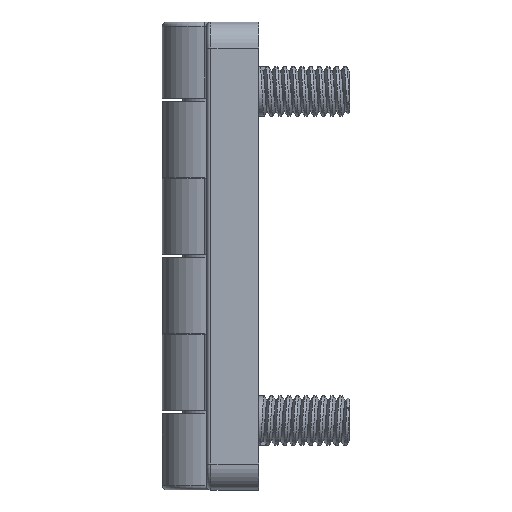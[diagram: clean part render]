
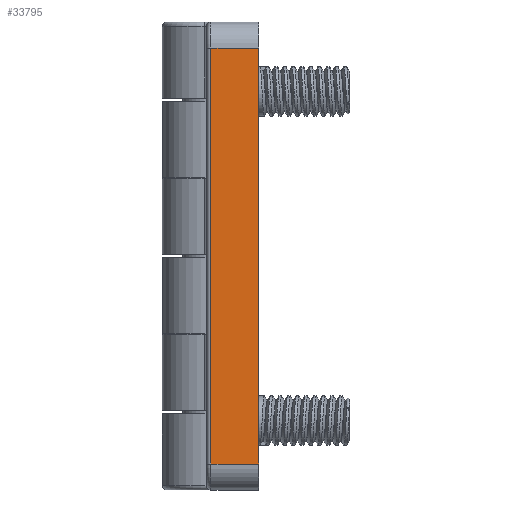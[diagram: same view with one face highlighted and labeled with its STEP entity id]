
A CAD part, left-side view. The second image highlights one B-rep face of the part: STEP entity #33795.
In plain terms, the highlighted planar face has unit normal (-1, 0, 0) as drawn and (1, 0, 0) by its records, which use the part's own axes.
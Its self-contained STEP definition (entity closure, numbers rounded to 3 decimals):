
#1199 = DIRECTION ( 'NONE',  ( 0., 1., 0. ) ) ;
#2846 = VERTEX_POINT ( 'NONE', #5552 ) ;
#5155 = ORIENTED_EDGE ( 'NONE', *, *, #35065, .T. ) ;
#5259 = VECTOR ( 'NONE', #38728, 1000. ) ;
#5552 = CARTESIAN_POINT ( 'NONE',  ( 19.7, -0.3, 51. ) ) ;
#7192 = DIRECTION ( 'NONE',  ( -1., 0., 0. ) ) ;
#7450 = VECTOR ( 'NONE', #49335, 1000. ) ;
#9320 = EDGE_CURVE ( 'NONE', #40501, #16548, #45862, .T. ) ;
#10485 = EDGE_LOOP ( 'NONE', ( #31538, #44092, #29205, #5155 ) ) ;
#13926 = CARTESIAN_POINT ( 'NONE',  ( 19.7, 0.2, 54. ) ) ;
#14195 = CARTESIAN_POINT ( 'NONE',  ( 19.7, -0.3, 3. ) ) ;
#16548 = VERTEX_POINT ( 'NONE', #14195 ) ;
#16688 = CARTESIAN_POINT ( 'NONE',  ( 19.7, 0.2, 51. ) ) ;
#17884 = CARTESIAN_POINT ( 'NONE',  ( 19.7, -5.8, 54. ) ) ;
#21713 = AXIS2_PLACEMENT_3D ( 'NONE', #13926, #7192, #44868 ) ;
#23985 = CARTESIAN_POINT ( 'NONE',  ( 19.7, -5.8, 51. ) ) ;
#26786 = EDGE_CURVE ( 'NONE', #16548, #2846, #27984, .T. ) ;
#26911 = CARTESIAN_POINT ( 'NONE',  ( 19.7, 0.2, 3. ) ) ;
#27930 = LINE ( 'NONE', #16688, #33688 ) ;
#27984 = LINE ( 'NONE', #46442, #5259 ) ;
#29205 = ORIENTED_EDGE ( 'NONE', *, *, #33727, .T. ) ;
#31538 = ORIENTED_EDGE ( 'NONE', *, *, #9320, .T. ) ;
#31912 = DIRECTION ( 'NONE',  ( 0., -1., 0. ) ) ;
#33688 = VECTOR ( 'NONE', #31912, 1000. ) ;
#33727 = EDGE_CURVE ( 'NONE', #2846, #37326, #27930, .T. ) ;
#33795 = ADVANCED_FACE ( 'NONE', ( #49117 ), #41129, .F. ) ;
#35065 = EDGE_CURVE ( 'NONE', #37326, #40501, #49094, .T. ) ;
#35121 = CARTESIAN_POINT ( 'NONE',  ( 19.7, -5.8, 3. ) ) ;
#37163 = VECTOR ( 'NONE', #1199, 1000. ) ;
#37326 = VERTEX_POINT ( 'NONE', #23985 ) ;
#38728 = DIRECTION ( 'NONE',  ( 0., 0., 1. ) ) ;
#40501 = VERTEX_POINT ( 'NONE', #35121 ) ;
#41129 = PLANE ( 'NONE',  #21713 ) ;
#44092 = ORIENTED_EDGE ( 'NONE', *, *, #26786, .T. ) ;
#44868 = DIRECTION ( 'NONE',  ( 0., 0., 1. ) ) ;
#45862 = LINE ( 'NONE', #26911, #37163 ) ;
#46442 = CARTESIAN_POINT ( 'NONE',  ( 19.7, -0.3, 54. ) ) ;
#49094 = LINE ( 'NONE', #17884, #7450 ) ;
#49117 = FACE_OUTER_BOUND ( 'NONE', #10485, .T. ) ;
#49335 = DIRECTION ( 'NONE',  ( 0., 0., -1. ) ) ;
